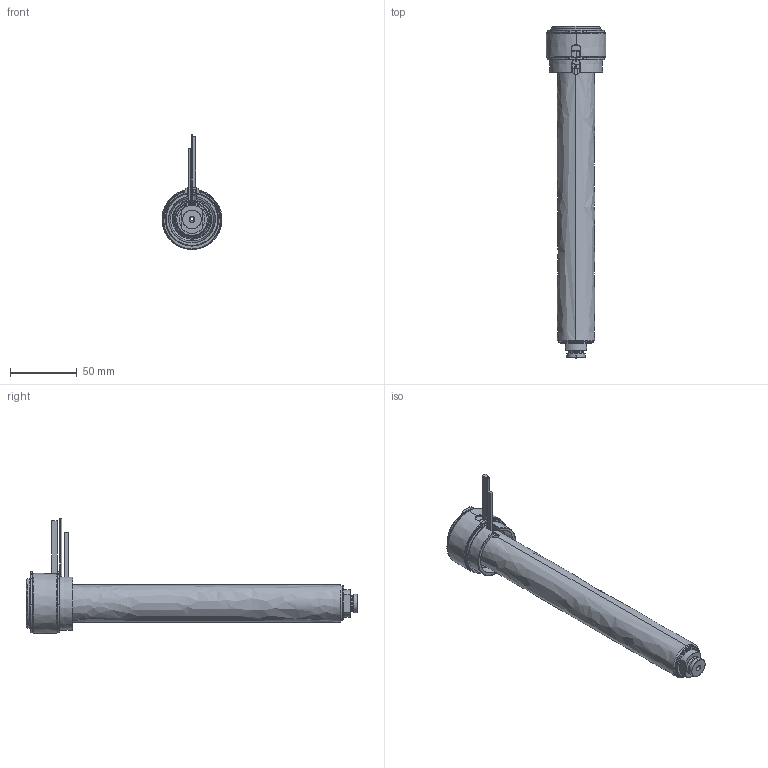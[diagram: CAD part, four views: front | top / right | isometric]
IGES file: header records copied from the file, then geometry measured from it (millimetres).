
Start section: SolidWorks IGES file using analytic representation for surfaces
Global section: file name: C:\Documents and Settings\ws-20\Desktop\TEM\UGBE4505-M-A-5 [Ød-2.5 P-0 ØC-10].IGS; native system: SolidWorks 2012; preprocessor: SolidWorks 2012; author: ws-20; date: 120412.155035; units: millimetre
Bounding box: 45 x 249.25 x 86.15 mm (x, y, z)
Surface area: 82446.2 mm2 (no closed solid volume)
Topology: 0 solids, 0 shells, 163 faces, 3065 edges, 3065 vertices
Faces by surface type: revolution 98, bspline 65
